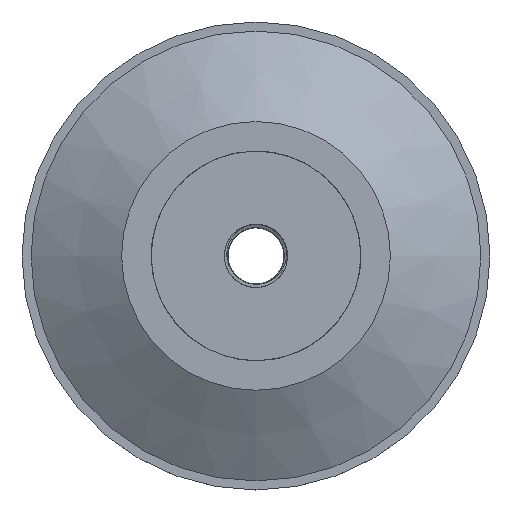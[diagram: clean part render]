
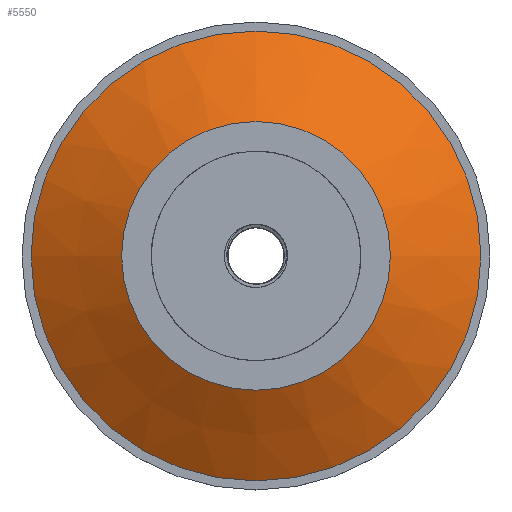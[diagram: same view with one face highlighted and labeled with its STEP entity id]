
A CAD part, top view. The second image highlights one B-rep face of the part: STEP entity #5550.
In plain terms, the highlighted conical face has half-angle 59.601 degrees and reference radius 59.5 mm.
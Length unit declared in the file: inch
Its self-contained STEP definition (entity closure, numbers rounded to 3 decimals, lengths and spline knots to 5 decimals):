
#450 = ORIENTED_EDGE ( 'NONE', *, *, #5389, .T. ) ;
#709 = CIRCLE ( 'NONE', #4758, 1.75197 ) ;
#716 = DIRECTION ( 'NONE',  ( 0., 1., 0. ) ) ;
#1012 = VERTEX_POINT ( 'NONE', #3051 ) ;
#1029 = AXIS2_PLACEMENT_3D ( 'NONE', #5784, #716, #4754 ) ;
#1250 = EDGE_LOOP ( 'NONE', ( #450 ) ) ;
#1317 = EDGE_LOOP ( 'NONE', ( #6096 ) ) ;
#1683 = DIRECTION ( 'NONE',  ( 0., -1., 0. ) ) ;
#2081 = VERTEX_POINT ( 'NONE', #4655 ) ;
#2417 = CONICAL_SURFACE ( 'NONE', #3270, 2.34252, 1.04 ) ;
#2652 = EDGE_CURVE ( 'NONE', #2081, #2081, #709, .T. ) ;
#2737 = CIRCLE ( 'NONE', #1029, 2.93307 ) ;
#3051 = CARTESIAN_POINT ( 'NONE',  ( 2.93307, 1.27559, 0. ) ) ;
#3270 = AXIS2_PLACEMENT_3D ( 'NONE', #6257, #1683, #3718 ) ;
#3718 = DIRECTION ( 'NONE',  ( -1., 0., 0. ) ) ;
#4201 = DIRECTION ( 'NONE',  ( 0., 1., 0. ) ) ;
#4224 = FACE_OUTER_BOUND ( 'NONE', #1250, .T. ) ;
#4655 = CARTESIAN_POINT ( 'NONE',  ( 1.75197, 1.9685, 0. ) ) ;
#4754 = DIRECTION ( 'NONE',  ( 1., 0., 0. ) ) ;
#4758 = AXIS2_PLACEMENT_3D ( 'NONE', #5209, #4201, #6231 ) ;
#4793 = FACE_BOUND ( 'NONE', #1317, .T. ) ;
#5209 = CARTESIAN_POINT ( 'NONE',  ( 0., 1.9685, 0. ) ) ;
#5389 = EDGE_CURVE ( 'NONE', #1012, #1012, #2737, .T. ) ;
#5550 = ADVANCED_FACE ( 'NONE', ( #4793, #4224 ), #2417, .T. ) ;
#5784 = CARTESIAN_POINT ( 'NONE',  ( 0., 1.27559, 0. ) ) ;
#6096 = ORIENTED_EDGE ( 'NONE', *, *, #2652, .F. ) ;
#6231 = DIRECTION ( 'NONE',  ( 1., 0., 0. ) ) ;
#6257 = CARTESIAN_POINT ( 'NONE',  ( 0., 1.62205, 0. ) ) ;
